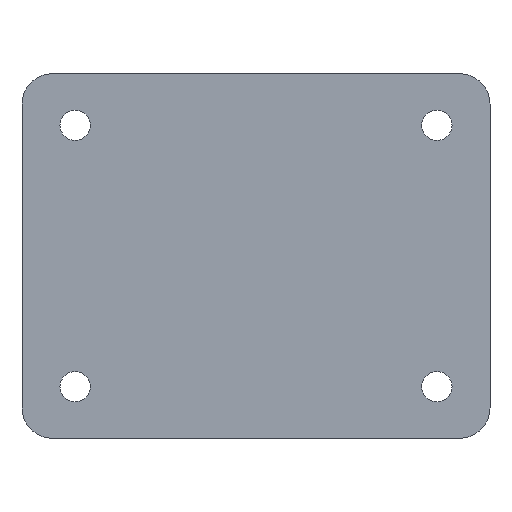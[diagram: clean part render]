
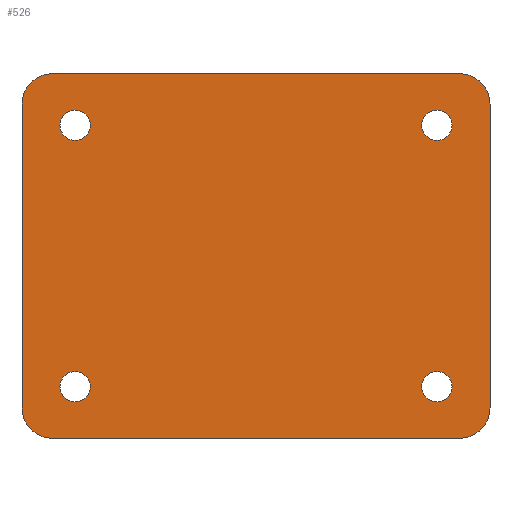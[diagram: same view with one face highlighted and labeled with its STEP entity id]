
A CAD part, front view. The second image highlights one B-rep face of the part: STEP entity #526.
In plain terms, the highlighted planar face has unit normal (0, -1, 0).
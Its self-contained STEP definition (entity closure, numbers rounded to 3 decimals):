
#10 = CARTESIAN_POINT ( 'NONE',  ( -29.75, 0., 24. ) ) ;
#12 = DIRECTION ( 'NONE',  ( 0., -1., 0. ) ) ;
#14 = CARTESIAN_POINT ( 'NONE',  ( -29.75, 0., -21.5 ) ) ;
#24 = CARTESIAN_POINT ( 'NONE',  ( -29.75, 0., 19. ) ) ;
#27 = DIRECTION ( 'NONE',  ( 0., 0., 1. ) ) ;
#32 = CIRCLE ( 'NONE', #439, 5. ) ;
#42 = VERTEX_POINT ( 'NONE', #24 ) ;
#47 = CIRCLE ( 'NONE', #308, 2.5 ) ;
#83 = CARTESIAN_POINT ( 'NONE',  ( 38.5, 0., 30. ) ) ;
#84 = LINE ( 'NONE', #792, #591 ) ;
#136 = VECTOR ( 'NONE', #189, 1000. ) ;
#137 = EDGE_LOOP ( 'NONE', ( #1353, #407, #249, #856, #545, #1313, #909, #150 ) ) ;
#145 = ORIENTED_EDGE ( 'NONE', *, *, #1206, .T. ) ;
#146 = CARTESIAN_POINT ( 'NONE',  ( 29.75, 0., -21.5 ) ) ;
#150 = ORIENTED_EDGE ( 'NONE', *, *, #527, .T. ) ;
#154 = CIRCLE ( 'NONE', #1075, 5. ) ;
#180 = VERTEX_POINT ( 'NONE', #816 ) ;
#186 = DIRECTION ( 'NONE',  ( 0., -1., 0. ) ) ;
#189 = DIRECTION ( 'NONE',  ( 0., 0., -1. ) ) ;
#247 = DIRECTION ( 'NONE',  ( 0., 1., 0. ) ) ;
#249 = ORIENTED_EDGE ( 'NONE', *, *, #878, .F. ) ;
#256 = CARTESIAN_POINT ( 'NONE',  ( -29.75, 0., -21.5 ) ) ;
#275 = DIRECTION ( 'NONE',  ( -1., 0., 0. ) ) ;
#287 = CIRCLE ( 'NONE', #746, 2.5 ) ;
#305 = DIRECTION ( 'NONE',  ( 0., 1., 0. ) ) ;
#308 = AXIS2_PLACEMENT_3D ( 'NONE', #146, #876, #989 ) ;
#333 = DIRECTION ( 'NONE',  ( 0., 1., 0. ) ) ;
#354 = ORIENTED_EDGE ( 'NONE', *, *, #1361, .T. ) ;
#362 = DIRECTION ( 'NONE',  ( 0., 0., 1. ) ) ;
#372 = VERTEX_POINT ( 'NONE', #397 ) ;
#382 = CARTESIAN_POINT ( 'NONE',  ( 0., 0., 0. ) ) ;
#388 = CIRCLE ( 'NONE', #1044, 2.5 ) ;
#397 = CARTESIAN_POINT ( 'NONE',  ( 29.75, 0., -24. ) ) ;
#407 = ORIENTED_EDGE ( 'NONE', *, *, #1072, .T. ) ;
#412 = ORIENTED_EDGE ( 'NONE', *, *, #1384, .T. ) ;
#419 = DIRECTION ( 'NONE',  ( 0., 0., 1. ) ) ;
#439 = AXIS2_PLACEMENT_3D ( 'NONE', #810, #186, #915 ) ;
#440 = DIRECTION ( 'NONE',  ( 0., -1., 0. ) ) ;
#455 = AXIS2_PLACEMENT_3D ( 'NONE', #256, #333, #756 ) ;
#481 = VERTEX_POINT ( 'NONE', #829 ) ;
#483 = CARTESIAN_POINT ( 'NONE',  ( 29.75, 0., -19. ) ) ;
#496 = DIRECTION ( 'NONE',  ( 0., 1., 0. ) ) ;
#497 = CARTESIAN_POINT ( 'NONE',  ( -29.75, 0., -19. ) ) ;
#501 = DIRECTION ( 'NONE',  ( 0., 1., 0. ) ) ;
#507 = EDGE_CURVE ( 'NONE', #180, #481, #1318, .T. ) ;
#523 = EDGE_LOOP ( 'NONE', ( #689, #412 ) ) ;
#524 = EDGE_CURVE ( 'NONE', #1327, #1182, #563, .T. ) ;
#526 = ADVANCED_FACE ( 'NONE', ( #985, #539, #863, #991, #974 ), #597, .F. ) ;
#527 = EDGE_CURVE ( 'NONE', #853, #1182, #1029, .T. ) ;
#536 = EDGE_CURVE ( 'NONE', #602, #1242, #797, .T. ) ;
#539 = FACE_BOUND ( 'NONE', #1077, .T. ) ;
#543 = VERTEX_POINT ( 'NONE', #483 ) ;
#545 = ORIENTED_EDGE ( 'NONE', *, *, #507, .F. ) ;
#551 = CARTESIAN_POINT ( 'NONE',  ( 33.5, 0., -30. ) ) ;
#563 = LINE ( 'NONE', #897, #982 ) ;
#591 = VECTOR ( 'NONE', #641, 1000. ) ;
#597 = PLANE ( 'NONE',  #898 ) ;
#601 = DIRECTION ( 'NONE',  ( 0., 0., 1. ) ) ;
#602 = VERTEX_POINT ( 'NONE', #1370 ) ;
#641 = DIRECTION ( 'NONE',  ( 0., 0., 1. ) ) ;
#658 = CARTESIAN_POINT ( 'NONE',  ( -33.5, 0., 25. ) ) ;
#683 = EDGE_CURVE ( 'NONE', #1261, #42, #287, .T. ) ;
#689 = ORIENTED_EDGE ( 'NONE', *, *, #1405, .T. ) ;
#696 = AXIS2_PLACEMENT_3D ( 'NONE', #1058, #879, #1241 ) ;
#702 = CARTESIAN_POINT ( 'NONE',  ( 38.5, 0., 25. ) ) ;
#706 = DIRECTION ( 'NONE',  ( 0., -1., 0. ) ) ;
#724 = CIRCLE ( 'NONE', #1307, 5. ) ;
#739 = AXIS2_PLACEMENT_3D ( 'NONE', #14, #847, #889 ) ;
#746 = AXIS2_PLACEMENT_3D ( 'NONE', #1377, #305, #419 ) ;
#747 = CARTESIAN_POINT ( 'NONE',  ( 29.75, 0., 21.5 ) ) ;
#752 = DIRECTION ( 'NONE',  ( 0., 0., 1. ) ) ;
#753 = CIRCLE ( 'NONE', #739, 2.5 ) ;
#756 = DIRECTION ( 'NONE',  ( 0., 0., 1. ) ) ;
#779 = CARTESIAN_POINT ( 'NONE',  ( -38.5, 0., 25. ) ) ;
#792 = CARTESIAN_POINT ( 'NONE',  ( -38.5, 0., 30. ) ) ;
#796 = DIRECTION ( 'NONE',  ( 0., 0., 1. ) ) ;
#797 = CIRCLE ( 'NONE', #978, 2.5 ) ;
#810 = CARTESIAN_POINT ( 'NONE',  ( 33.5, 0., 25. ) ) ;
#816 = CARTESIAN_POINT ( 'NONE',  ( -33.5, 0., 30. ) ) ;
#826 = AXIS2_PLACEMENT_3D ( 'NONE', #996, #706, #796 ) ;
#829 = CARTESIAN_POINT ( 'NONE',  ( 33.5, 0., 30. ) ) ;
#837 = DIRECTION ( 'NONE',  ( 0., 1., 0. ) ) ;
#847 = DIRECTION ( 'NONE',  ( 0., 1., 0. ) ) ;
#853 = VERTEX_POINT ( 'NONE', #1328 ) ;
#856 = ORIENTED_EDGE ( 'NONE', *, *, #859, .T. ) ;
#859 = EDGE_CURVE ( 'NONE', #1172, #481, #32, .T. ) ;
#863 = FACE_BOUND ( 'NONE', #1091, .T. ) ;
#876 = DIRECTION ( 'NONE',  ( 0., 1., 0. ) ) ;
#878 = EDGE_CURVE ( 'NONE', #1172, #1125, #1213, .T. ) ;
#879 = DIRECTION ( 'NONE',  ( 0., 1., 0. ) ) ;
#889 = DIRECTION ( 'NONE',  ( 0., 0., 1. ) ) ;
#895 = DIRECTION ( 'NONE',  ( 1., 0., 0. ) ) ;
#897 = CARTESIAN_POINT ( 'NONE',  ( 38.5, 0., -30. ) ) ;
#898 = AXIS2_PLACEMENT_3D ( 'NONE', #382, #496, #601 ) ;
#909 = ORIENTED_EDGE ( 'NONE', *, *, #1010, .F. ) ;
#915 = DIRECTION ( 'NONE',  ( 0., 0., 1. ) ) ;
#927 = CIRCLE ( 'NONE', #455, 2.5 ) ;
#974 = FACE_OUTER_BOUND ( 'NONE', #137, .T. ) ;
#978 = AXIS2_PLACEMENT_3D ( 'NONE', #1132, #501, #1251 ) ;
#982 = VECTOR ( 'NONE', #275, 1000. ) ;
#985 = FACE_BOUND ( 'NONE', #1196, .T. ) ;
#989 = DIRECTION ( 'NONE',  ( 0., 0., 1. ) ) ;
#991 = FACE_BOUND ( 'NONE', #523, .T. ) ;
#992 = VERTEX_POINT ( 'NONE', #1322 ) ;
#996 = CARTESIAN_POINT ( 'NONE',  ( -33.5, 0., -25. ) ) ;
#998 = VERTEX_POINT ( 'NONE', #779 ) ;
#1010 = EDGE_CURVE ( 'NONE', #853, #998, #84, .T. ) ;
#1026 = ORIENTED_EDGE ( 'NONE', *, *, #1133, .T. ) ;
#1029 = CIRCLE ( 'NONE', #826, 5. ) ;
#1044 = AXIS2_PLACEMENT_3D ( 'NONE', #747, #837, #362 ) ;
#1058 = CARTESIAN_POINT ( 'NONE',  ( 29.75, 0., -21.5 ) ) ;
#1070 = CIRCLE ( 'NONE', #696, 2.5 ) ;
#1071 = CARTESIAN_POINT ( 'NONE',  ( 33.5, 0., -25. ) ) ;
#1072 = EDGE_CURVE ( 'NONE', #1327, #1125, #154, .T. ) ;
#1074 = EDGE_CURVE ( 'NONE', #180, #998, #724, .T. ) ;
#1075 = AXIS2_PLACEMENT_3D ( 'NONE', #1071, #440, #1187 ) ;
#1077 = EDGE_LOOP ( 'NONE', ( #145, #1131 ) ) ;
#1091 = EDGE_LOOP ( 'NONE', ( #1234, #1311 ) ) ;
#1111 = CARTESIAN_POINT ( 'NONE',  ( 38.5, 0., 30. ) ) ;
#1125 = VERTEX_POINT ( 'NONE', #1256 ) ;
#1131 = ORIENTED_EDGE ( 'NONE', *, *, #536, .T. ) ;
#1132 = CARTESIAN_POINT ( 'NONE',  ( 29.75, 0., 21.5 ) ) ;
#1133 = EDGE_CURVE ( 'NONE', #543, #372, #1070, .T. ) ;
#1172 = VERTEX_POINT ( 'NONE', #702 ) ;
#1176 = CARTESIAN_POINT ( 'NONE',  ( -33.5, 0., -30. ) ) ;
#1182 = VERTEX_POINT ( 'NONE', #1176 ) ;
#1187 = DIRECTION ( 'NONE',  ( 0., 0., 1. ) ) ;
#1193 = CIRCLE ( 'NONE', #1357, 2.5 ) ;
#1196 = EDGE_LOOP ( 'NONE', ( #1026, #354 ) ) ;
#1206 = EDGE_CURVE ( 'NONE', #1242, #602, #388, .T. ) ;
#1213 = LINE ( 'NONE', #83, #136 ) ;
#1234 = ORIENTED_EDGE ( 'NONE', *, *, #683, .T. ) ;
#1240 = VECTOR ( 'NONE', #895, 1000. ) ;
#1241 = DIRECTION ( 'NONE',  ( 0., 0., 1. ) ) ;
#1242 = VERTEX_POINT ( 'NONE', #1295 ) ;
#1251 = DIRECTION ( 'NONE',  ( 0., 0., 1. ) ) ;
#1256 = CARTESIAN_POINT ( 'NONE',  ( 38.5, 0., -25. ) ) ;
#1261 = VERTEX_POINT ( 'NONE', #10 ) ;
#1295 = CARTESIAN_POINT ( 'NONE',  ( 29.75, 0., 24. ) ) ;
#1303 = EDGE_CURVE ( 'NONE', #42, #1261, #1193, .T. ) ;
#1307 = AXIS2_PLACEMENT_3D ( 'NONE', #658, #12, #752 ) ;
#1311 = ORIENTED_EDGE ( 'NONE', *, *, #1303, .T. ) ;
#1313 = ORIENTED_EDGE ( 'NONE', *, *, #1074, .T. ) ;
#1318 = LINE ( 'NONE', #1111, #1240 ) ;
#1322 = CARTESIAN_POINT ( 'NONE',  ( -29.75, 0., -24. ) ) ;
#1327 = VERTEX_POINT ( 'NONE', #551 ) ;
#1328 = CARTESIAN_POINT ( 'NONE',  ( -38.5, 0., -25. ) ) ;
#1341 = CARTESIAN_POINT ( 'NONE',  ( -29.75, 0., 21.5 ) ) ;
#1345 = VERTEX_POINT ( 'NONE', #497 ) ;
#1353 = ORIENTED_EDGE ( 'NONE', *, *, #524, .F. ) ;
#1357 = AXIS2_PLACEMENT_3D ( 'NONE', #1341, #247, #27 ) ;
#1361 = EDGE_CURVE ( 'NONE', #372, #543, #47, .T. ) ;
#1370 = CARTESIAN_POINT ( 'NONE',  ( 29.75, 0., 19. ) ) ;
#1377 = CARTESIAN_POINT ( 'NONE',  ( -29.75, 0., 21.5 ) ) ;
#1384 = EDGE_CURVE ( 'NONE', #992, #1345, #927, .T. ) ;
#1405 = EDGE_CURVE ( 'NONE', #1345, #992, #753, .T. ) ;
